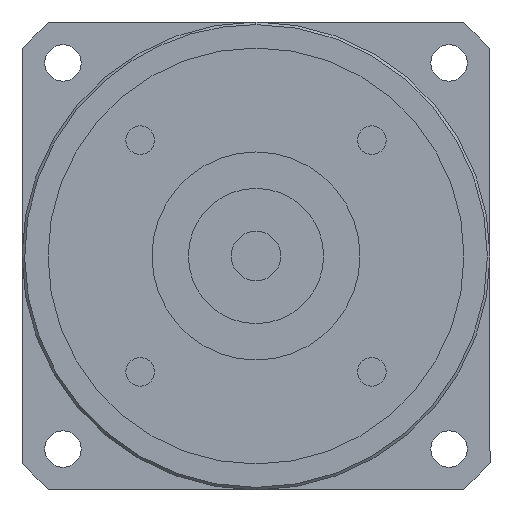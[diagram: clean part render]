
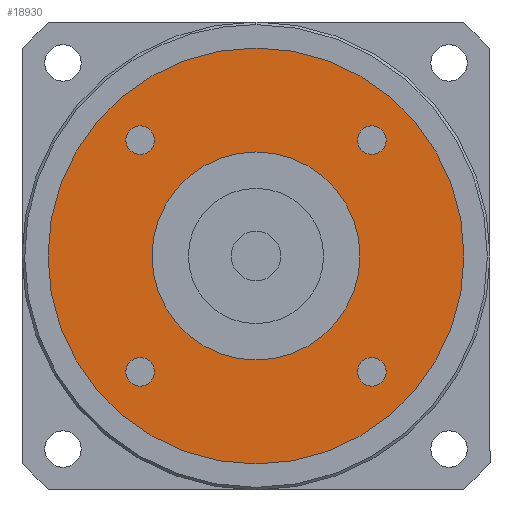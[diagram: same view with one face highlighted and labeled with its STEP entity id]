
A CAD part, left-side view. The second image highlights one B-rep face of the part: STEP entity #18930.
In plain terms, the highlighted planar face has unit normal (-1, 0, 0) as drawn and (0, 0, -1) by its records, which use the part's own axes.
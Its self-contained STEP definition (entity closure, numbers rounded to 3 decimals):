
#15710=CARTESIAN_POINT('',(-19.524,-22.274,-117.));
#15720=VERTEX_POINT('',#15710);
#15900=CARTESIAN_POINT('',(-25.024,-22.274,-117.));
#15910=VERTEX_POINT('',#15900);
#15940=CARTESIAN_POINT('',(-22.274,-22.274,-117.));
#15950=DIRECTION('',(0.,0.,-1.));
#15960=DIRECTION('',(0.,-1.,0.));
#15970=AXIS2_PLACEMENT_3D('',#15940,#15950,#15960);
#15980=CIRCLE('',#15970,2.75);
#15990=CARTESIAN_POINT('',(-22.274,-25.024,-117.));
#16000=VERTEX_POINT('',#15990);
#16010=EDGE_CURVE('',#16000,#15910,#15980,.T.);
#16030=EDGE_CURVE('',#15720,#16000,#15980,.T.);
#16130=CARTESIAN_POINT('',(0.,0.,
-117.));
#16140=DIRECTION('',(0.,0.,1.));
#16150=DIRECTION('',(0.,-1.,0.));
#16160=AXIS2_PLACEMENT_3D('',#16130,#16140,#16150);
#16170=CIRCLE('',#16160,20.);
#16180=CARTESIAN_POINT('',(0.,-20.,-117.));
#16190=VERTEX_POINT('',#16180);
#16200=CARTESIAN_POINT('',(20.,0.,-117.));
#16210=VERTEX_POINT('',#16200);
#16220=EDGE_CURVE('',#16190,#16210,#16170,.T.);
#16450=CARTESIAN_POINT('',(-20.,0.,-117.));
#16460=VERTEX_POINT('',#16450);
#16490=EDGE_CURVE('',#16460,#16190,#16170,.T.);
#17860=CARTESIAN_POINT('',(40.,0.,-117.));
#17870=VERTEX_POINT('',#17860);
#17900=CARTESIAN_POINT('',(0.,0.,
-117.));
#17910=DIRECTION('',(0.,0.,1.));
#17920=DIRECTION('',(0.,-1.,0.));
#17930=AXIS2_PLACEMENT_3D('',#17900,#17910,#17920);
#17940=CIRCLE('',#17930,40.);
#17950=CARTESIAN_POINT('',(0.,-40.,-117.));
#17960=VERTEX_POINT('',#17950);
#17970=EDGE_CURVE('',#17960,#17870,#17940,.T.);
#17990=CARTESIAN_POINT('',(-40.,0.,-117.));
#18000=VERTEX_POINT('',#17990);
#18010=EDGE_CURVE('',#18000,#17960,#17940,.T.);
#18130=CARTESIAN_POINT('',(0.,0.,
-117.));
#18140=DIRECTION('',(0.,0.,1.));
#18150=DIRECTION('',(-1.,0.,0.));
#18160=AXIS2_PLACEMENT_3D('',#18130,#18140,#18150);
#18170=PLANE('',#18160);
#18180=CARTESIAN_POINT('',(22.274,-22.274,-117.));
#18190=DIRECTION('',(0.,0.,-1.));
#18200=DIRECTION('',(1.,0.,0.));
#18210=AXIS2_PLACEMENT_3D('',#18180,#18190,#18200);
#18220=CIRCLE('',#18210,2.75);
#18230=CARTESIAN_POINT('',(25.024,-22.274,-117.));
#18240=VERTEX_POINT('',#18230);
#18250=CARTESIAN_POINT('',(22.274,-25.024,-117.));
#18260=VERTEX_POINT('',#18250);
#18270=EDGE_CURVE('',#18240,#18260,#18220,.T.);
#18280=ORIENTED_EDGE('',*,*,#18270,.F.);
#18290=CARTESIAN_POINT('',(22.274,-19.524,-117.));
#18300=VERTEX_POINT('',#18290);
#18310=EDGE_CURVE('',#18260,#18300,#18220,.T.);
#18320=ORIENTED_EDGE('',*,*,#18310,.F.);
#18330=EDGE_CURVE('',#18300,#18240,#18220,.T.);
#18340=ORIENTED_EDGE('',*,*,#18330,.F.);
#18350=EDGE_LOOP('',(#18340,#18320,#18280));
#18360=FACE_BOUND('',#18350,.T.);
#18370=CARTESIAN_POINT('',(22.274,22.274,-117.));
#18380=DIRECTION('',(0.,0.,-1.));
#18390=DIRECTION('',(0.,1.,0.));
#18400=AXIS2_PLACEMENT_3D('',#18370,#18380,#18390);
#18410=CIRCLE('',#18400,2.75);
#18420=CARTESIAN_POINT('',(22.274,25.024,-117.));
#18430=VERTEX_POINT('',#18420);
#18440=CARTESIAN_POINT('',(25.024,22.274,-117.));
#18450=VERTEX_POINT('',#18440);
#18460=EDGE_CURVE('',#18430,#18450,#18410,.T.);
#18470=ORIENTED_EDGE('',*,*,#18460,.F.);
#18480=CARTESIAN_POINT('',(19.524,22.274,-117.));
#18490=VERTEX_POINT('',#18480);
#18500=EDGE_CURVE('',#18450,#18490,#18410,.T.);
#18510=ORIENTED_EDGE('',*,*,#18500,.F.);
#18520=EDGE_CURVE('',#18490,#18430,#18410,.T.);
#18530=ORIENTED_EDGE('',*,*,#18520,.F.);
#18540=EDGE_LOOP('',(#18530,#18510,#18470));
#18550=FACE_BOUND('',#18540,.T.);
#18560=CARTESIAN_POINT('',(-22.274,22.274,-117.));
#18570=DIRECTION('',(0.,0.,-1.));
#18580=DIRECTION('',(-1.,0.,0.));
#18590=AXIS2_PLACEMENT_3D('',#18560,#18570,#18580);
#18600=CIRCLE('',#18590,2.75);
#18610=CARTESIAN_POINT('',(-25.024,22.274,-117.));
#18620=VERTEX_POINT('',#18610);
#18630=CARTESIAN_POINT('',(-22.274,25.024,-117.));
#18640=VERTEX_POINT('',#18630);
#18650=EDGE_CURVE('',#18620,#18640,#18600,.T.);
#18660=ORIENTED_EDGE('',*,*,#18650,.F.);
#18670=CARTESIAN_POINT('',(-22.274,19.524,-117.));
#18680=VERTEX_POINT('',#18670);
#18690=EDGE_CURVE('',#18640,#18680,#18600,.T.);
#18700=ORIENTED_EDGE('',*,*,#18690,.F.);
#18710=EDGE_CURVE('',#18680,#18620,#18600,.T.);
#18720=ORIENTED_EDGE('',*,*,#18710,.F.);
#18730=EDGE_LOOP('',(#18720,#18700,#18660));
#18740=FACE_BOUND('',#18730,.T.);
#18750=ORIENTED_EDGE('',*,*,#16010,.F.);
#18760=EDGE_CURVE('',#15910,#15720,#15980,.T.);
#18770=ORIENTED_EDGE('',*,*,#18760,.F.);
#18780=ORIENTED_EDGE('',*,*,#16030,.F.);
#18790=EDGE_LOOP('',(#18780,#18770,#18750));
#18800=FACE_BOUND('',#18790,.T.);
#18810=ORIENTED_EDGE('',*,*,#17970,.F.);
#18820=EDGE_CURVE('',#17870,#18000,#17940,.T.);
#18830=ORIENTED_EDGE('',*,*,#18820,.F.);
#18840=ORIENTED_EDGE('',*,*,#18010,.F.);
#18850=EDGE_LOOP('',(#18840,#18830,#18810));
#18860=FACE_OUTER_BOUND('',#18850,.T.);
#18870=EDGE_CURVE('',#16210,#16460,#16170,.T.);
#18880=ORIENTED_EDGE('',*,*,#18870,.T.);
#18890=ORIENTED_EDGE('',*,*,#16220,.T.);
#18900=ORIENTED_EDGE('',*,*,#16490,.T.);
#18910=EDGE_LOOP('',(#18900,#18890,#18880));
#18920=FACE_BOUND('',#18910,.T.);
#18930=ADVANCED_FACE('',(#18360,#18550,#18740,#18800,#18860,#18920),
#18170,.F.);
